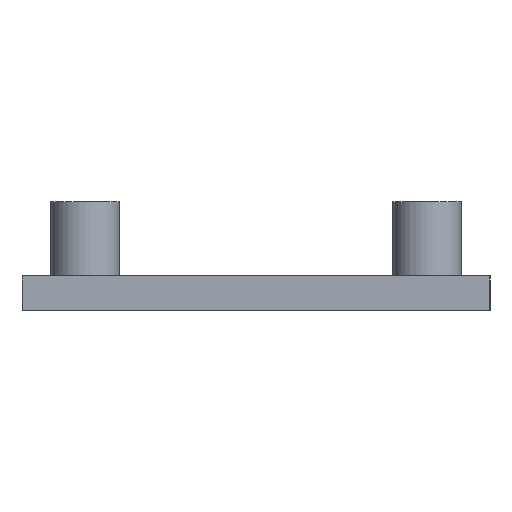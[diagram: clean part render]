
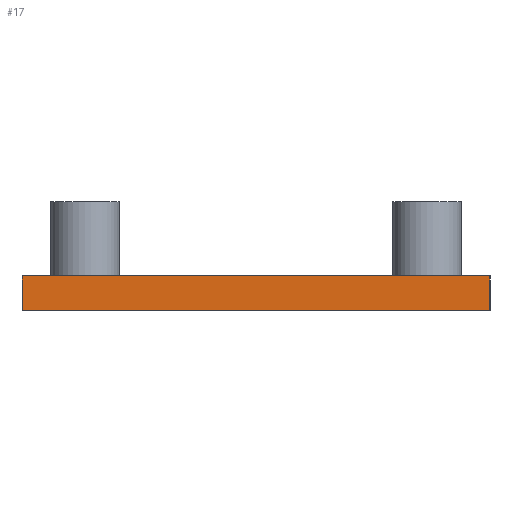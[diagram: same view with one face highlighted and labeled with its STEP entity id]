
A CAD part, left-side view. The second image highlights one B-rep face of the part: STEP entity #17.
In plain terms, the highlighted planar face has unit normal (-1, 0, 0).
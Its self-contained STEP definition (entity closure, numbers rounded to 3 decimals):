
#17 = ADVANCED_FACE('',(#18),#32,.F.);
#18 = FACE_BOUND('',#19,.F.);
#19 = EDGE_LOOP('',(#20,#55,#83,#111));
#20 = ORIENTED_EDGE('',*,*,#21,.F.);
#21 = EDGE_CURVE('',#22,#24,#26,.T.);
#22 = VERTEX_POINT('',#23);
#23 = CARTESIAN_POINT('',(-22.,-20.5,-1.5));
#24 = VERTEX_POINT('',#25);
#25 = CARTESIAN_POINT('',(-22.,-20.5,1.5));
#26 = SURFACE_CURVE('',#27,(#31,#43),.PCURVE_S1.);
#27 = LINE('',#28,#29);
#28 = CARTESIAN_POINT('',(-22.,-20.5,-1.5));
#29 = VECTOR('',#30,1.);
#30 = DIRECTION('',(0.,0.,1.));
#31 = PCURVE('',#32,#37);
#32 = PLANE('',#33);
#33 = AXIS2_PLACEMENT_3D('',#34,#35,#36);
#34 = CARTESIAN_POINT('',(-22.,-20.5,-1.5));
#35 = DIRECTION('',(1.,0.,0.));
#36 = DIRECTION('',(0.,0.,1.));
#37 = DEFINITIONAL_REPRESENTATION('',(#38),#42);
#38 = LINE('',#39,#40);
#39 = CARTESIAN_POINT('',(0.,0.));
#40 = VECTOR('',#41,1.);
#41 = DIRECTION('',(1.,0.));
#42 = ( GEOMETRIC_REPRESENTATION_CONTEXT(2) 
PARAMETRIC_REPRESENTATION_CONTEXT() REPRESENTATION_CONTEXT('2D SPACE',''
  ) );
#43 = PCURVE('',#44,#49);
#44 = PLANE('',#45);
#45 = AXIS2_PLACEMENT_3D('',#46,#47,#48);
#46 = CARTESIAN_POINT('',(-22.,-20.5,-1.5));
#47 = DIRECTION('',(0.,1.,0.));
#48 = DIRECTION('',(0.,0.,1.));
#49 = DEFINITIONAL_REPRESENTATION('',(#50),#54);
#50 = LINE('',#51,#52);
#51 = CARTESIAN_POINT('',(0.,0.));
#52 = VECTOR('',#53,1.);
#53 = DIRECTION('',(1.,0.));
#54 = ( GEOMETRIC_REPRESENTATION_CONTEXT(2) 
PARAMETRIC_REPRESENTATION_CONTEXT() REPRESENTATION_CONTEXT('2D SPACE',''
  ) );
#55 = ORIENTED_EDGE('',*,*,#56,.T.);
#56 = EDGE_CURVE('',#22,#57,#59,.T.);
#57 = VERTEX_POINT('',#58);
#58 = CARTESIAN_POINT('',(-22.,20.5,-1.5));
#59 = SURFACE_CURVE('',#60,(#64,#71),.PCURVE_S1.);
#60 = LINE('',#61,#62);
#61 = CARTESIAN_POINT('',(-22.,-20.5,-1.5));
#62 = VECTOR('',#63,1.);
#63 = DIRECTION('',(0.,1.,0.));
#64 = PCURVE('',#32,#65);
#65 = DEFINITIONAL_REPRESENTATION('',(#66),#70);
#66 = LINE('',#67,#68);
#67 = CARTESIAN_POINT('',(0.,0.));
#68 = VECTOR('',#69,1.);
#69 = DIRECTION('',(0.,-1.));
#70 = ( GEOMETRIC_REPRESENTATION_CONTEXT(2) 
PARAMETRIC_REPRESENTATION_CONTEXT() REPRESENTATION_CONTEXT('2D SPACE',''
  ) );
#71 = PCURVE('',#72,#77);
#72 = PLANE('',#73);
#73 = AXIS2_PLACEMENT_3D('',#74,#75,#76);
#74 = CARTESIAN_POINT('',(-22.,-20.5,-1.5));
#75 = DIRECTION('',(0.,0.,1.));
#76 = DIRECTION('',(1.,0.,0.));
#77 = DEFINITIONAL_REPRESENTATION('',(#78),#82);
#78 = LINE('',#79,#80);
#79 = CARTESIAN_POINT('',(0.,0.));
#80 = VECTOR('',#81,1.);
#81 = DIRECTION('',(0.,1.));
#82 = ( GEOMETRIC_REPRESENTATION_CONTEXT(2) 
PARAMETRIC_REPRESENTATION_CONTEXT() REPRESENTATION_CONTEXT('2D SPACE',''
  ) );
#83 = ORIENTED_EDGE('',*,*,#84,.T.);
#84 = EDGE_CURVE('',#57,#85,#87,.T.);
#85 = VERTEX_POINT('',#86);
#86 = CARTESIAN_POINT('',(-22.,20.5,1.5));
#87 = SURFACE_CURVE('',#88,(#92,#99),.PCURVE_S1.);
#88 = LINE('',#89,#90);
#89 = CARTESIAN_POINT('',(-22.,20.5,-1.5));
#90 = VECTOR('',#91,1.);
#91 = DIRECTION('',(0.,0.,1.));
#92 = PCURVE('',#32,#93);
#93 = DEFINITIONAL_REPRESENTATION('',(#94),#98);
#94 = LINE('',#95,#96);
#95 = CARTESIAN_POINT('',(0.,-41.));
#96 = VECTOR('',#97,1.);
#97 = DIRECTION('',(1.,0.));
#98 = ( GEOMETRIC_REPRESENTATION_CONTEXT(2) 
PARAMETRIC_REPRESENTATION_CONTEXT() REPRESENTATION_CONTEXT('2D SPACE',''
  ) );
#99 = PCURVE('',#100,#105);
#100 = PLANE('',#101);
#101 = AXIS2_PLACEMENT_3D('',#102,#103,#104);
#102 = CARTESIAN_POINT('',(-22.,20.5,-1.5));
#103 = DIRECTION('',(0.,1.,0.));
#104 = DIRECTION('',(0.,0.,1.));
#105 = DEFINITIONAL_REPRESENTATION('',(#106),#110);
#106 = LINE('',#107,#108);
#107 = CARTESIAN_POINT('',(0.,0.));
#108 = VECTOR('',#109,1.);
#109 = DIRECTION('',(1.,0.));
#110 = ( GEOMETRIC_REPRESENTATION_CONTEXT(2) 
PARAMETRIC_REPRESENTATION_CONTEXT() REPRESENTATION_CONTEXT('2D SPACE',''
  ) );
#111 = ORIENTED_EDGE('',*,*,#112,.F.);
#112 = EDGE_CURVE('',#24,#85,#113,.T.);
#113 = SURFACE_CURVE('',#114,(#118,#125),.PCURVE_S1.);
#114 = LINE('',#115,#116);
#115 = CARTESIAN_POINT('',(-22.,-20.5,1.5));
#116 = VECTOR('',#117,1.);
#117 = DIRECTION('',(0.,1.,0.));
#118 = PCURVE('',#32,#119);
#119 = DEFINITIONAL_REPRESENTATION('',(#120),#124);
#120 = LINE('',#121,#122);
#121 = CARTESIAN_POINT('',(3.,0.));
#122 = VECTOR('',#123,1.);
#123 = DIRECTION('',(0.,-1.));
#124 = ( GEOMETRIC_REPRESENTATION_CONTEXT(2) 
PARAMETRIC_REPRESENTATION_CONTEXT() REPRESENTATION_CONTEXT('2D SPACE',''
  ) );
#125 = PCURVE('',#126,#131);
#126 = PLANE('',#127);
#127 = AXIS2_PLACEMENT_3D('',#128,#129,#130);
#128 = CARTESIAN_POINT('',(-22.,-20.5,1.5));
#129 = DIRECTION('',(0.,0.,1.));
#130 = DIRECTION('',(1.,0.,0.));
#131 = DEFINITIONAL_REPRESENTATION('',(#132),#136);
#132 = LINE('',#133,#134);
#133 = CARTESIAN_POINT('',(0.,0.));
#134 = VECTOR('',#135,1.);
#135 = DIRECTION('',(0.,1.));
#136 = ( GEOMETRIC_REPRESENTATION_CONTEXT(2) 
PARAMETRIC_REPRESENTATION_CONTEXT() REPRESENTATION_CONTEXT('2D SPACE',''
  ) );
